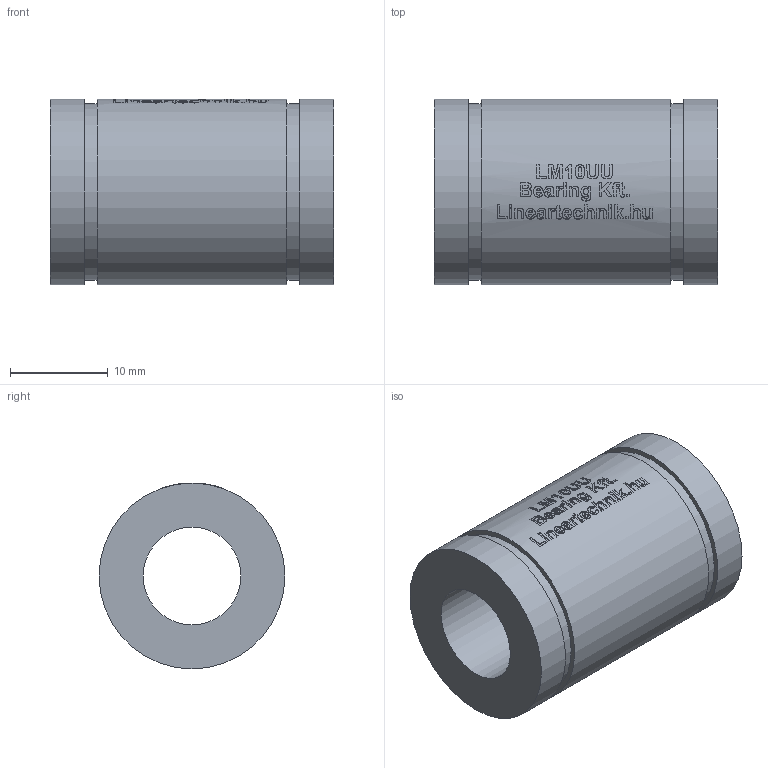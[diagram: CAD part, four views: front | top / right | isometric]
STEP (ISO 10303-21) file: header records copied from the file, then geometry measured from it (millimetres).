
FILE_DESCRIPTION(/* description */ ('Huosing for flange nuts'),/* implementation_level */ '2;1');
FILE_NAME(/* name */ 'LM10UU',/* time_stamp */ '2019-05-07T14:07:28+02:00',/* author */ ('VĂ©gh MĂˇtĂ©'),/* organization */ ('Bearing Kft'),/* preprocessor_version */ 'ST-DEVELOPER v16.7',/* originating_system */ 'DEX',/* authorisation */ $);
FILE_SCHEMA (('AUTOMOTIVE_DESIGN {1 0 10303 214 3 1 1}'));
Length unit declared in the file: millimetre
Products named in the file (1): LM10UU
Bounding box: 29 x 19 x 19 mm (x, y, z)
Volume: 5866.6 mm3; surface area: 3177.7 mm2
Topology: 1 solids, 1 shells, 299 faces, 746 edges, 497 vertices
Faces by surface type: plane 156, bspline 92, cylinder 51
Full cylindrical faces by diameter (mm): 10 x1, 18 x2, 19 x3
Entity records: 14707 total; most frequent: CARTESIAN_POINT 8062, ORIENTED_EDGE 1470, DIRECTION 1106, EDGE_CURVE 735, VERTEX_POINT 495, LINE 406, VECTOR 406, EDGE_LOOP 358
